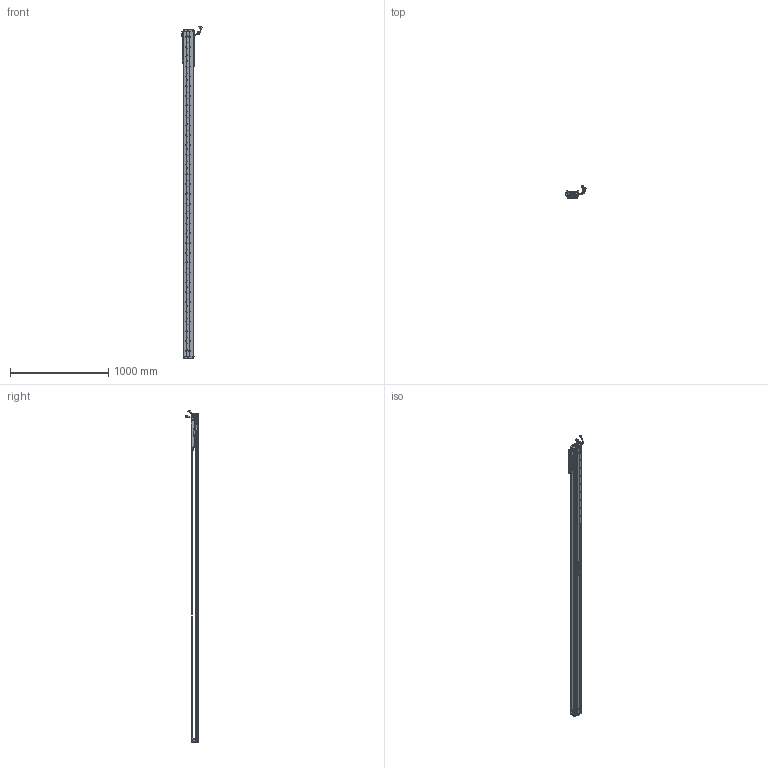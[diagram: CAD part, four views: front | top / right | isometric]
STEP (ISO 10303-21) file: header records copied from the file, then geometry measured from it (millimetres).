
FILE_DESCRIPTION (( 'STEP AP203' ), '1' );
FILE_NAME ('Z4-RY100D-1-L500-B-K.SLDASM_2950.step', '2021-05-17T03:05:23', ( '盈信电脑' ), ( '东莞市道滘镇水果街19号' ), 'SwSTEP 2.0', 'SolidWorks 2016', '' );
FILE_SCHEMA (( 'CONFIG_CONTROL_DESIGN' ));
Length unit declared in the file: millimetre
Products named in the file (36): Z-100詩湍傷裔啣; Z-RY100D詩湍奻揤裔; HARNESS-Part-2; LABEL-Part-1; LABEL; SCREW-M1.6-1; 榋妏寠巭燃_暯_M2_2; COVER-Part-1; SEAL; Z-RY100D覜茼んえ; Z-RY100D詩湍狟揤裔; HARNESS-Part-1; SCALE-Part-1; Z4-RY100D-500-倰第菁釱_2950; PBU_SHEET; SCREW-M1.7-1; COVER; HOLDER0; Z4-RY100D-1-L500-B-K.SLDASM_2950; 100-Z-臏賑輸盄裔(21遴); PSLH080_PSLF2; SCREW-M1.6-3; SCREW-M1.7; HARNESS; SCREW-M1.6-2; SEAL-Part-1; SCALE; 覜茼ん672; Z4-RY100-L500詩湍90mm遵_2950; 080黍杅芛假蚾釱21遴; 140蚥薯蝶輸; Z4-RY100铝滑块（21款）; SHIELDPLATE; 140雄赽晤鎢ん堤盄; SCREW-M1.6; SCALE-Part-2
Assembly tree (43 placements, depth 4):
  Z4-RY100D-1-L500-B-K.SLDASM_2950
    Z4-RY100D-500-倰第菁釱_2950
    Z4-RY100铝滑块（21款）
    PSLH080_PSLF2
      SCALE
        SCALE-Part-1
        SCALE-Part-2
      HARNESS
        HARNESS-Part-1
        HARNESS-Part-2
      LABEL
        LABEL-Part-1
      COVER
        COVER-Part-1
      SEAL
        SEAL-Part-1
      榋妏寠巭燃_暯_M2_2
      SHIELDPLATE
      SCREW-M1.7
      SCREW-M1.7-1
      PBU_SHEET
      SCREW-M1.6
      SCREW-M1.6-1
      SCREW-M1.6-2
      SCREW-M1.6-3
      HOLDER0
    080黍杅芛假蚾釱21遴
    Z-100詩湍傷裔啣  x2
    140蚥薯蝶輸  x2
    覜茼ん672  x3
    Z-RY100D覜茼んえ  x3
    100-Z-臏賑輸盄裔(21遴)
    140雄赽晤鎢ん堤盄
    Z4-RY100-L500詩湍90mm遵_2950
    Z-RY100D詩湍狟揤裔  x2
    Z-RY100D詩湍奻揤裔  x2
Bounding box: 205.79 x 136.11 x 3385.43 mm (x, y, z)
Volume: 6143669.6 mm3; surface area: 2415450.3 mm2
Topology: 38 solids, 38 shells, 3198 faces, 8845 edges, 5664 vertices
Faces by surface type: cylinder 1638, plane 1212, cone 226, torus 69, bspline 53
Entity records: 94613 total; most frequent: CARTESIAN_POINT 19766, DIRECTION 15353, ORIENTED_EDGE 14570, EDGE_CURVE 7285, AXIS2_PLACEMENT_3D 5815, VERTEX_POINT 4732, VECTOR 3723, LINE 3723
